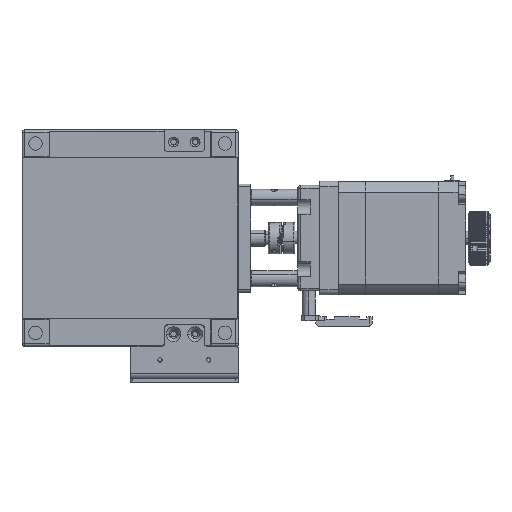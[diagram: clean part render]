
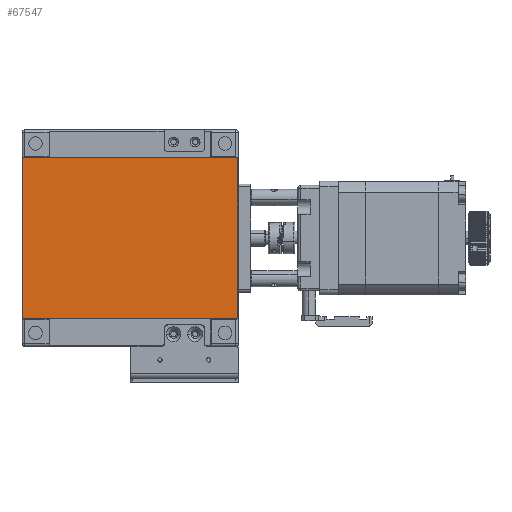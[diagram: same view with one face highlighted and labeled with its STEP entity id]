
A CAD part, front view. The second image highlights one B-rep face of the part: STEP entity #67547.
In plain terms, the highlighted planar face has unit normal (0, -1, 0).
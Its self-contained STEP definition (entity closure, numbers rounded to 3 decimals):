
#3334 = AXIS2_PLACEMENT_3D ( 'NONE', #94771, #54065, #7588 ) ;
#3554 = CARTESIAN_POINT ( 'NONE',  ( 39.714, 0.3, -29.7 ) ) ;
#6551 = FACE_OUTER_BOUND ( 'NONE', #55309, .T. ) ;
#7588 = DIRECTION ( 'NONE',  ( 1., 0., 0. ) ) ;
#8746 = DIRECTION ( 'NONE',  ( -1., 0., 0. ) ) ;
#10206 = VERTEX_POINT ( 'NONE', #100882 ) ;
#13423 = LINE ( 'NONE', #85966, #27489 ) ;
#14811 = CARTESIAN_POINT ( 'NONE',  ( 40., 0.3, 29.7 ) ) ;
#18996 = EDGE_CURVE ( 'NONE', #23719, #10206, #94168, .T. ) ;
#23719 = VERTEX_POINT ( 'NONE', #49480 ) ;
#23888 = CARTESIAN_POINT ( 'NONE',  ( 40., 0.3, -29.7 ) ) ;
#27489 = VECTOR ( 'NONE', #44772, 1000. ) ;
#33421 = VERTEX_POINT ( 'NONE', #100883 ) ;
#36016 = ORIENTED_EDGE ( 'NONE', *, *, #59157, .T. ) ;
#36404 = CARTESIAN_POINT ( 'NONE',  ( 39.714, 0.3, -29.7 ) ) ;
#36546 = VECTOR ( 'NONE', #83379, 1000. ) ;
#37858 = PLANE ( 'NONE',  #3334 ) ;
#42826 = EDGE_CURVE ( 'NONE', #59867, #33421, #95438, .T. ) ;
#43733 = LINE ( 'NONE', #36404, #36546 ) ;
#44772 = DIRECTION ( 'NONE',  ( 0., 0., -1. ) ) ;
#46670 = DIRECTION ( 'NONE',  ( -1., 0., 0. ) ) ;
#49480 = CARTESIAN_POINT ( 'NONE',  ( 39.714, 0.3, 29.7 ) ) ;
#51258 = VECTOR ( 'NONE', #46670, 1000. ) ;
#54065 = DIRECTION ( 'NONE',  ( 0., 1., 0. ) ) ;
#55309 = EDGE_LOOP ( 'NONE', ( #36016, #100688, #99322, #55341 ) ) ;
#55341 = ORIENTED_EDGE ( 'NONE', *, *, #42826, .F. ) ;
#59157 = EDGE_CURVE ( 'NONE', #59867, #23719, #43733, .T. ) ;
#59867 = VERTEX_POINT ( 'NONE', #3554 ) ;
#67547 = ADVANCED_FACE ( 'NONE', ( #6551 ), #37858, .F. ) ;
#83379 = DIRECTION ( 'NONE',  ( 0., 0., 1. ) ) ;
#85966 = CARTESIAN_POINT ( 'NONE',  ( -39.714, 0.3, 29.7 ) ) ;
#88519 = VECTOR ( 'NONE', #8746, 1000. ) ;
#94168 = LINE ( 'NONE', #14811, #51258 ) ;
#94771 = CARTESIAN_POINT ( 'NONE',  ( 40., 0.3, 29.7 ) ) ;
#95438 = LINE ( 'NONE', #23888, #88519 ) ;
#97045 = EDGE_CURVE ( 'NONE', #10206, #33421, #13423, .T. ) ;
#99322 = ORIENTED_EDGE ( 'NONE', *, *, #97045, .T. ) ;
#100688 = ORIENTED_EDGE ( 'NONE', *, *, #18996, .T. ) ;
#100882 = CARTESIAN_POINT ( 'NONE',  ( -39.714, 0.3, 29.7 ) ) ;
#100883 = CARTESIAN_POINT ( 'NONE',  ( -39.714, 0.3, -29.7 ) ) ;
